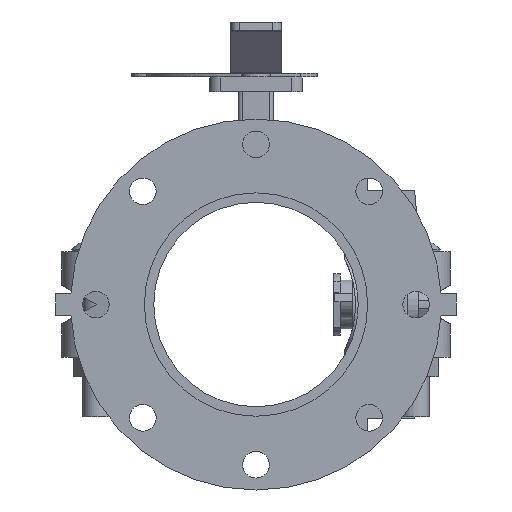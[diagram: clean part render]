
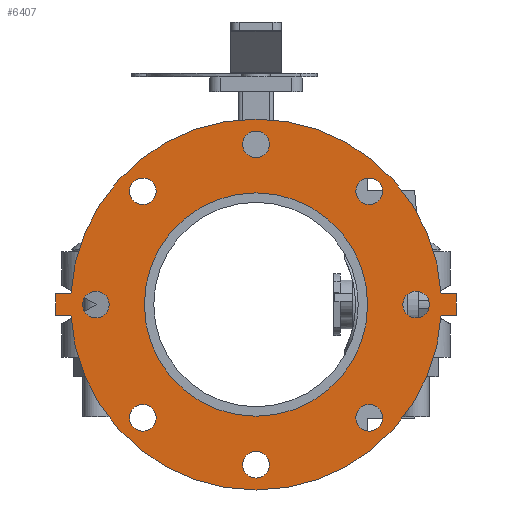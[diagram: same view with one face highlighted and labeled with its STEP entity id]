
A CAD part, front view. The second image highlights one B-rep face of the part: STEP entity #6407.
In plain terms, the highlighted planar face has unit normal (0, -1, 0) as drawn and (0, 0, -1) by its records, which use the part's own axes.
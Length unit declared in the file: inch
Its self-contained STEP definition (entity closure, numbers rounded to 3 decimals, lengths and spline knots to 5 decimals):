
#146=FACE_BOUND('',#796,.T.);
#147=FACE_BOUND('',#797,.T.);
#148=FACE_BOUND('',#798,.T.);
#149=FACE_BOUND('',#799,.T.);
#150=FACE_BOUND('',#800,.T.);
#151=FACE_BOUND('',#801,.T.);
#152=FACE_BOUND('',#802,.T.);
#153=FACE_BOUND('',#803,.T.);
#154=FACE_BOUND('',#804,.T.);
#226=PLANE('',#6930);
#439=FACE_OUTER_BOUND('',#795,.T.);
#795=EDGE_LOOP('',(#4169,#4170,#4171,#4172,#4173,#4174,#4175,#4176));
#796=EDGE_LOOP('',(#4177));
#797=EDGE_LOOP('',(#4178));
#798=EDGE_LOOP('',(#4179));
#799=EDGE_LOOP('',(#4180));
#800=EDGE_LOOP('',(#4181));
#801=EDGE_LOOP('',(#4182));
#802=EDGE_LOOP('',(#4183));
#803=EDGE_LOOP('',(#4184));
#804=EDGE_LOOP('',(#4185));
#1210=LINE('',#9671,#1715);
#1213=LINE('',#9677,#1718);
#1216=LINE('',#9682,#1721);
#1218=LINE('',#9687,#1723);
#1222=LINE('',#9694,#1727);
#1224=LINE('',#9697,#1729);
#1715=VECTOR('',#7707,0.3937);
#1718=VECTOR('',#7712,0.3937);
#1721=VECTOR('',#7717,0.3937);
#1723=VECTOR('',#7721,0.3937);
#1727=VECTOR('',#7727,0.3937);
#1729=VECTOR('',#7731,0.3937);
#2208=CIRCLE('',#6892,0.395);
#2210=CIRCLE('',#6895,0.395);
#2212=CIRCLE('',#6898,0.395);
#2214=CIRCLE('',#6901,0.395);
#2216=CIRCLE('',#6904,0.395);
#2218=CIRCLE('',#6907,0.395);
#2220=CIRCLE('',#6910,0.395);
#2222=CIRCLE('',#6913,0.395);
#2223=CIRCLE('',#6915,3.3125);
#2225=CIRCLE('',#6918,5.5);
#2228=CIRCLE('',#6922,5.5);
#2560=VERTEX_POINT('',#9600);
#2562=VERTEX_POINT('',#9606);
#2564=VERTEX_POINT('',#9612);
#2566=VERTEX_POINT('',#9618);
#2568=VERTEX_POINT('',#9624);
#2570=VERTEX_POINT('',#9630);
#2572=VERTEX_POINT('',#9636);
#2574=VERTEX_POINT('',#9642);
#2575=VERTEX_POINT('',#9646);
#2577=VERTEX_POINT('',#9652);
#2579=VERTEX_POINT('',#9655);
#2581=VERTEX_POINT('',#9661);
#2584=VERTEX_POINT('',#9666);
#2585=VERTEX_POINT('',#9670);
#2587=VERTEX_POINT('',#9676);
#2589=VERTEX_POINT('',#9685);
#2590=VERTEX_POINT('',#9686);
#3173=EDGE_CURVE('',#2560,#2560,#2208,.T.);
#3176=EDGE_CURVE('',#2562,#2562,#2210,.T.);
#3179=EDGE_CURVE('',#2564,#2564,#2212,.T.);
#3182=EDGE_CURVE('',#2566,#2566,#2214,.T.);
#3185=EDGE_CURVE('',#2568,#2568,#2216,.T.);
#3188=EDGE_CURVE('',#2570,#2570,#2218,.T.);
#3191=EDGE_CURVE('',#2572,#2572,#2220,.T.);
#3194=EDGE_CURVE('',#2574,#2574,#2222,.T.);
#3195=EDGE_CURVE('',#2575,#2575,#2223,.T.);
#3199=EDGE_CURVE('',#2577,#2579,#2225,.T.);
#3205=EDGE_CURVE('',#2584,#2581,#2228,.T.);
#3206=EDGE_CURVE('',#2579,#2585,#1210,.T.);
#3209=EDGE_CURVE('',#2587,#2584,#1213,.T.);
#3212=EDGE_CURVE('',#2585,#2587,#1216,.T.);
#3214=EDGE_CURVE('',#2589,#2590,#1218,.T.);
#3218=EDGE_CURVE('',#2581,#2589,#1222,.T.);
#3220=EDGE_CURVE('',#2590,#2577,#1224,.T.);
#4169=ORIENTED_EDGE('',*,*,#3220,.F.);
#4170=ORIENTED_EDGE('',*,*,#3214,.F.);
#4171=ORIENTED_EDGE('',*,*,#3218,.F.);
#4172=ORIENTED_EDGE('',*,*,#3205,.F.);
#4173=ORIENTED_EDGE('',*,*,#3209,.F.);
#4174=ORIENTED_EDGE('',*,*,#3212,.F.);
#4175=ORIENTED_EDGE('',*,*,#3206,.F.);
#4176=ORIENTED_EDGE('',*,*,#3199,.F.);
#4177=ORIENTED_EDGE('',*,*,#3173,.T.);
#4178=ORIENTED_EDGE('',*,*,#3176,.T.);
#4179=ORIENTED_EDGE('',*,*,#3179,.T.);
#4180=ORIENTED_EDGE('',*,*,#3182,.T.);
#4181=ORIENTED_EDGE('',*,*,#3185,.T.);
#4182=ORIENTED_EDGE('',*,*,#3188,.T.);
#4183=ORIENTED_EDGE('',*,*,#3191,.T.);
#4184=ORIENTED_EDGE('',*,*,#3194,.T.);
#4185=ORIENTED_EDGE('',*,*,#3195,.T.);
#6407=ADVANCED_FACE('',(#439,#146,#147,#148,#149,#150,#151,#152,#153,#154),
#226,.F.);
#6892=AXIS2_PLACEMENT_3D('',#9602,#7631,#7632);
#6895=AXIS2_PLACEMENT_3D('',#9608,#7638,#7639);
#6898=AXIS2_PLACEMENT_3D('',#9614,#7645,#7646);
#6901=AXIS2_PLACEMENT_3D('',#9620,#7652,#7653);
#6904=AXIS2_PLACEMENT_3D('',#9626,#7659,#7660);
#6907=AXIS2_PLACEMENT_3D('',#9632,#7666,#7667);
#6910=AXIS2_PLACEMENT_3D('',#9638,#7673,#7674);
#6913=AXIS2_PLACEMENT_3D('',#9644,#7680,#7681);
#6915=AXIS2_PLACEMENT_3D('',#9647,#7684,#7685);
#6918=AXIS2_PLACEMENT_3D('',#9656,#7692,#7693);
#6922=AXIS2_PLACEMENT_3D('',#9668,#7703,#7704);
#6930=AXIS2_PLACEMENT_3D('',#9700,#7735,#7736);
#7631=DIRECTION('center_axis',(0.,0.,1.));
#7632=DIRECTION('ref_axis',(-0.707,-0.707,0.));
#7638=DIRECTION('center_axis',(0.,0.,1.));
#7639=DIRECTION('ref_axis',(-1.,0.,0.));
#7645=DIRECTION('center_axis',(0.,0.,1.));
#7646=DIRECTION('ref_axis',(-0.707,0.707,0.));
#7652=DIRECTION('center_axis',(0.,0.,1.));
#7653=DIRECTION('ref_axis',(0.,1.,0.));
#7659=DIRECTION('center_axis',(0.,0.,1.));
#7660=DIRECTION('ref_axis',(0.707,0.707,0.));
#7666=DIRECTION('center_axis',(0.,0.,1.));
#7667=DIRECTION('ref_axis',(1.,0.,0.));
#7673=DIRECTION('center_axis',(0.,0.,1.));
#7674=DIRECTION('ref_axis',(0.707,-0.707,0.));
#7680=DIRECTION('center_axis',(0.,0.,1.));
#7681=DIRECTION('ref_axis',(0.,-1.,0.));
#7684=DIRECTION('center_axis',(0.,0.,1.));
#7685=DIRECTION('ref_axis',(0.,-1.,0.));
#7692=DIRECTION('center_axis',(0.,0.,1.));
#7693=DIRECTION('ref_axis',(0.,1.,0.));
#7703=DIRECTION('center_axis',(0.,0.,1.));
#7704=DIRECTION('ref_axis',(0.,1.,0.));
#7707=DIRECTION('',(0.,-1.,0.));
#7712=DIRECTION('',(0.,1.,0.));
#7717=DIRECTION('',(1.,0.,0.));
#7721=DIRECTION('',(-1.,0.,0.));
#7727=DIRECTION('',(0.,1.,0.));
#7731=DIRECTION('',(0.,-1.,0.));
#7735=DIRECTION('center_axis',(0.,0.,1.));
#7736=DIRECTION('ref_axis',(0.,1.,0.));
#9600=CARTESIAN_POINT('',(-3.07945,3.63806,0.));
#9602=CARTESIAN_POINT('Origin',(-3.35876,3.35876,0.));
#9606=CARTESIAN_POINT('',(0.395,4.75,0.));
#9608=CARTESIAN_POINT('Origin',(0.,4.75,0.));
#9612=CARTESIAN_POINT('',(3.63806,3.07945,0.));
#9614=CARTESIAN_POINT('Origin',(3.35876,3.35876,0.));
#9618=CARTESIAN_POINT('',(4.75,-0.395,0.));
#9620=CARTESIAN_POINT('Origin',(4.75,0.,0.));
#9624=CARTESIAN_POINT('',(3.07945,-3.63806,0.));
#9626=CARTESIAN_POINT('Origin',(3.35876,-3.35876,0.));
#9630=CARTESIAN_POINT('',(-0.395,-4.75,0.));
#9632=CARTESIAN_POINT('Origin',(0.,-4.75,0.));
#9636=CARTESIAN_POINT('',(-3.63806,-3.07945,0.));
#9638=CARTESIAN_POINT('Origin',(-3.35876,-3.35876,0.));
#9642=CARTESIAN_POINT('',(-4.75,0.395,0.));
#9644=CARTESIAN_POINT('Origin',(-4.75,0.,0.));
#9646=CARTESIAN_POINT('',(0.,3.3125,0.));
#9647=CARTESIAN_POINT('Origin',(0.,0.,0.));
#9652=CARTESIAN_POINT('',(-0.32,5.49068,0.));
#9655=CARTESIAN_POINT('',(-0.32,-5.49068,0.));
#9656=CARTESIAN_POINT('Origin',(0.,0.,0.));
#9661=CARTESIAN_POINT('',(0.32,5.49068,0.));
#9666=CARTESIAN_POINT('',(0.32,-5.49068,0.));
#9668=CARTESIAN_POINT('Origin',(0.,0.,0.));
#9670=CARTESIAN_POINT('',(-0.32,-5.94,0.));
#9671=CARTESIAN_POINT('',(-0.32,-5.49068,0.));
#9676=CARTESIAN_POINT('',(0.32,-5.94,0.));
#9677=CARTESIAN_POINT('',(0.32,-5.94,0.));
#9682=CARTESIAN_POINT('',(-0.32,-5.94,0.));
#9685=CARTESIAN_POINT('',(0.32,5.94,0.));
#9686=CARTESIAN_POINT('',(-0.32,5.94,0.));
#9687=CARTESIAN_POINT('',(0.32,5.94,0.));
#9694=CARTESIAN_POINT('',(0.32,5.49068,0.));
#9697=CARTESIAN_POINT('',(-0.32,5.94,0.));
#9700=CARTESIAN_POINT('Origin',(0.,5.73459,0.));
